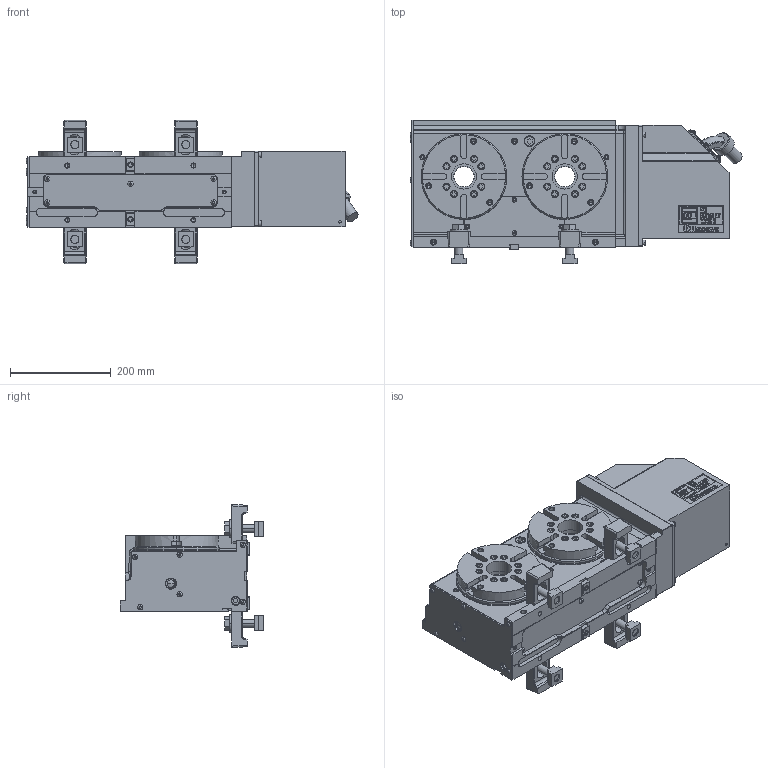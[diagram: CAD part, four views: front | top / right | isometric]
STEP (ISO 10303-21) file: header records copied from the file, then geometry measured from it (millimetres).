
FILE_DESCRIPTION (( 'STEP AP214' ), '1' );
FILE_NAME ('TM2160AV.STEP', '2021-07-30T01:13:49', ( '' ), ( '' ), 'SwSTEP 2.0', 'SolidWorks 2020', '' );
FILE_SCHEMA (( 'AUTOMOTIVE_DESIGN' ));
Length unit declared in the file: millimetre
Products named in the file (12): モータケース(61E2828890)TM2160AV00; TM2160AV00儂儞僞僀; TM2160A00儂儞僞僀(61E109614); CLAMPING PARTS(61E424758)結合; 働乕僽儖N29ZSZ2562; キタガワシール; 儂儞僞僀ASSY(61E1148630)TM2160A00; ギヤボックス(61E2411072)TM2160A00; ガイドブロック(61M4197783); テーブル(61E8457760)TM2160A00; TM2160AV; オイルゲージ 207
Assembly tree (16 placements, depth 4):
  TM2160AV
    TM2160AV00儂儞僞僀
      TM2160A00儂儞僞僀(61E109614)
        儂儞僞僀ASSY(61E1148630)TM2160A00
        ギヤボックス(61E2411072)TM2160A00
        テーブル(61E8457760)TM2160A00  x2
        オイルゲージ 207
      ガイドブロック(61M4197783)  x2
      モータケース(61E2828890)TM2160AV00
      働乕僽儖N29ZSZ2562
      キタガワシール
    CLAMPING PARTS(61E424758)結合  x4
Bounding box: 658.25 x 285 x 284 mm (x, y, z)
Volume: 19056555.6 mm3; surface area: 1089982.2 mm2
Topology: 14 solids, 14 shells, 3381 faces, 8777 edges, 5712 vertices
Faces by surface type: plane 2420, cylinder 664, cone 220, torus 50, bspline 21, sphere 6
Entity records: 103662 total; most frequent: CARTESIAN_POINT 16952, ORIENTED_EDGE 15520, DIRECTION 15005, EDGE_CURVE 7760, LINE 6345, VECTOR 6345, VERTEX_POINT 5103, AXIS2_PLACEMENT_3D 4330
